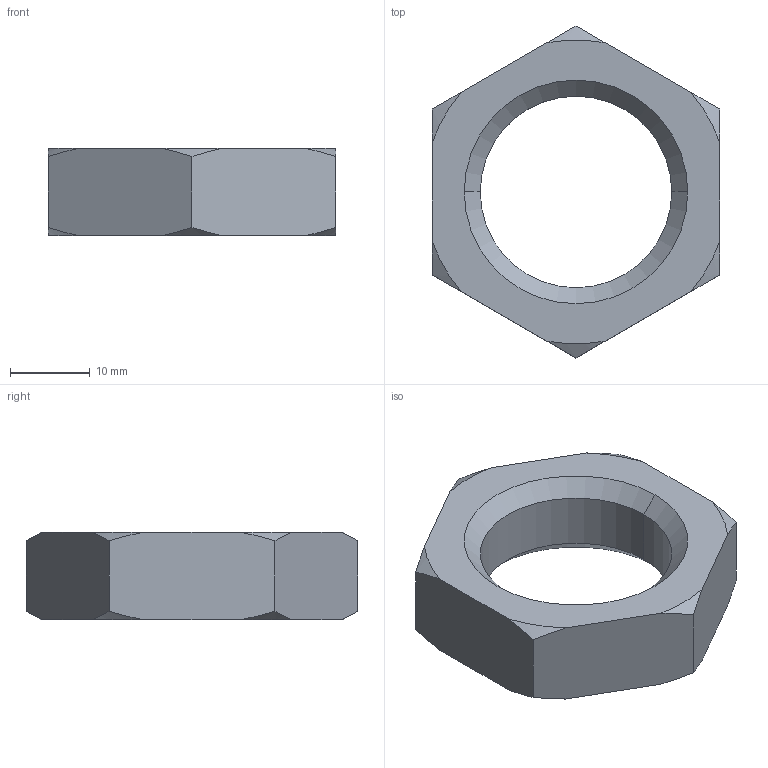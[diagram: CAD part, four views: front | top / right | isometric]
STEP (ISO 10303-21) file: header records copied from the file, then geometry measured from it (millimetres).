
FILE_DESCRIPTION (( 'STEP AP203' ), '1' );
FILE_NAME ('P0306.240-200-A2.step', '2018-12-15T14:54:59', ( '' ), ( '' ), 'SwSTEP 2.0', 'SolidWorks 2017', '' );
FILE_SCHEMA (( 'CONFIG_CONTROL_DESIGN' ));
Length unit declared in the file: millimetre
Products named in the file (1): P0306.240-200-A2
Bounding box: 36 x 41.57 x 10.9 mm (x, y, z)
Volume: 6961.2 mm3; surface area: 3318.5 mm2
Topology: 1 solids, 1 shells, 26 faces, 68 edges, 44 vertices
Faces by surface type: cone 16, plane 8, cylinder 2
Entity records: 913 total; most frequent: CARTESIAN_POINT 219, ORIENTED_EDGE 136, DIRECTION 118, EDGE_CURVE 68, AXIS2_PLACEMENT_3D 47, VERTEX_POINT 44, EDGE_LOOP 28, ADVANCED_FACE 26
